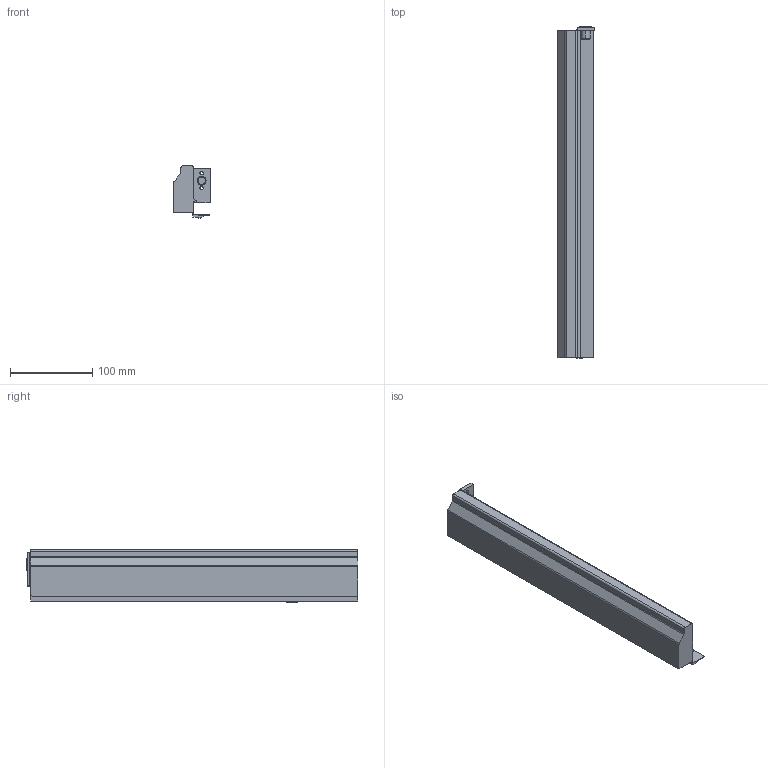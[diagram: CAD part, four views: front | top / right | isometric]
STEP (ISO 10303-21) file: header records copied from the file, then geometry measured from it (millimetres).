
FILE_DESCRIPTION (( 'STEP AP214' ), '1' );
FILE_NAME ('IMOS_NOVA-Pro_Dekor-H63_CL_NL400_LI.step', '2010-09-28T15:26:07', ( 'grass' ), ( '' ), 'SwSTEP 2.0', 'SolidWorks 2010', '' );
FILE_SCHEMA (( 'AUTOMOTIVE_DESIGN' ));
Length unit declared in the file: millimetre
Products named in the file (1): IMOS_NOVA-Pro_Dekor-H63_CL_NL400_LI
Bounding box: 44.3 x 402.7 x 63.49 mm (x, y, z)
Volume: 195366.2 mm3; surface area: 116497.6 mm2
Topology: 1 solids, 1 shells, 69 faces, 186 edges, 121 vertices
Faces by surface type: plane 41, cylinder 23, cone 4, bspline 1
Entity records: 2206 total; most frequent: CARTESIAN_POINT 390, DIRECTION 375, ORIENTED_EDGE 372, EDGE_CURVE 186, LINE 131, VECTOR 131, AXIS2_PLACEMENT_3D 122, VERTEX_POINT 121
